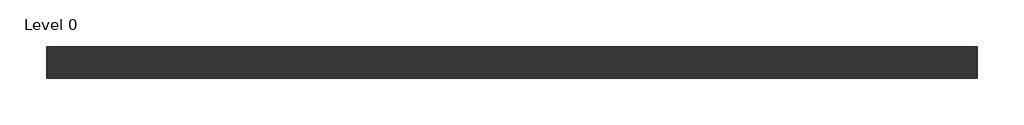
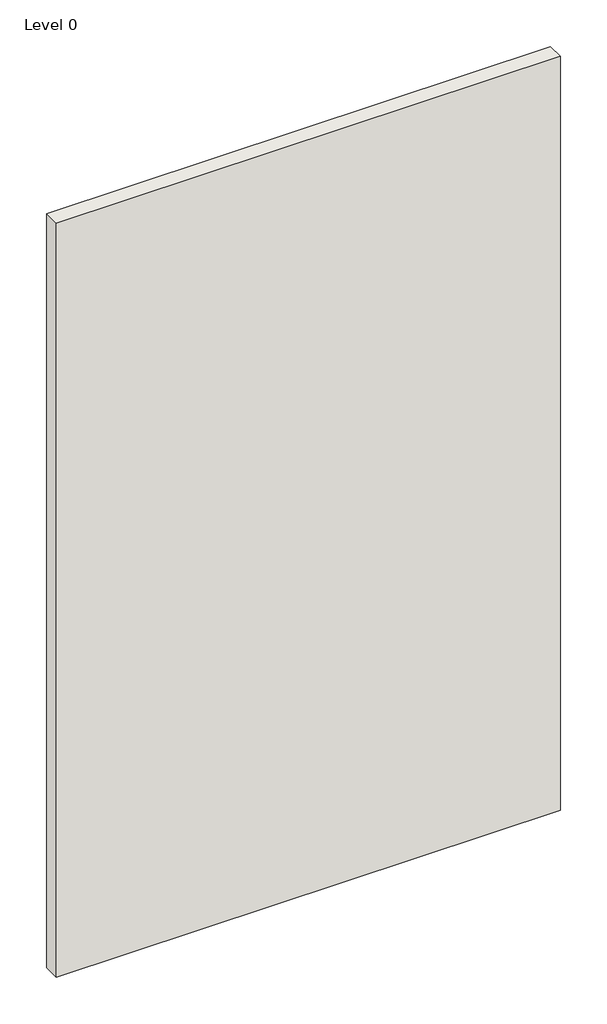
# One storey: 1 wall.
"""IFC4 building model written with IfcOpenShell, lengths in millimetres."""

from ifc_helpers import new_model, si_unit, origin, origin_with_axes, place, context, project, spatial, polyline, outline, extrude, element, save

model = new_model("IFC4")

# Units and contexts
model_context = context("Model", 3, world=origin())
ifc_project = project(units=[si_unit("LENGTHUNIT", "METRE", prefix="MILLI")], contexts=[model_context])

# Site, building, storey
site = spatial("IfcSite", under=ifc_project)
building = spatial("IfcBuilding", under=site)
storey = spatial("IfcBuildingStorey", under=building, Name="Level 0", Elevation=0.0)

# Wall
placement = place(None, origin())
element("IfcWall", 1, ObjectType="A026014 - GypWall Classic", at=placement, inside=storey, context=model_context, shape_type="SweptSolid", body=[
    extrude(outline(polyline([(1155.997948, 502.7669953), (-1944.002052, 502.7669953), (-1944.002052, 607.7669953), (1155.997948, 607.7669953), (1155.997948, 502.7669953)])), origin_with_axes(), (0.0, 0.0, 1.0), 4900.0),
])

save(model, "model.ifc")
